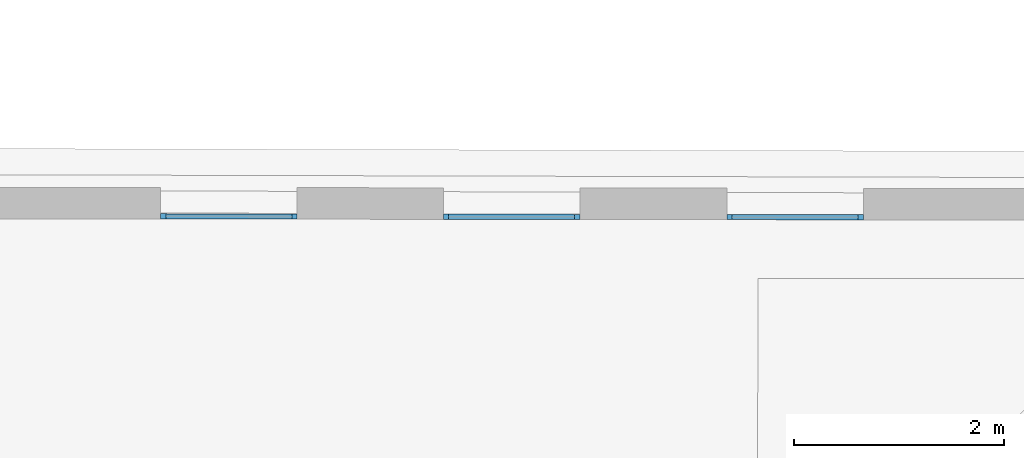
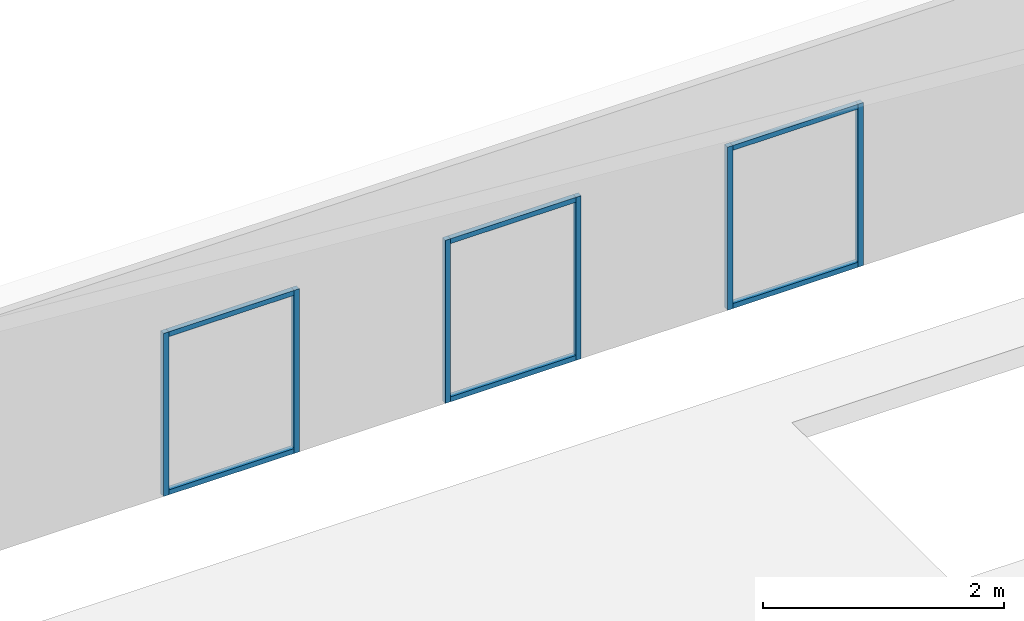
# One storey, part 14 of 26: 12 members, 3 elements without a shape of their own.
"""IFC2X3 building model written with IfcOpenShell, lengths in metres."""

from ifc_helpers import new_model, entity, si_unit, converted_unit, derived_unit, direction, frame, origin, origin_2d_with_axis, place, context, subcontext, project, spatial, rectangle, extrude, source, transform, mapped, material, type_object, type_shapes, element, aggregate, save


model = new_model("IFC2X3")

# Units and contexts
model_context = context("Model", 3, precision=1e-05, world=origin(), true_north=direction((6.123233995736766e-17, 1.0)))
body_context = subcontext(model_context, "Body", "Model", "MODEL_VIEW")
ifc_project = project(units=[si_unit("LENGTHUNIT", "METRE"), si_unit("AREAUNIT", "SQUARE_METRE"), converted_unit("PLANEANGLEUNIT", "DEGREE", entity("IfcPlaneAngleMeasure", 0.017453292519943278), si_unit("PLANEANGLEUNIT", "RADIAN"), dimensions=[0, 0, 0, 0, 0, 0, 0]), derived_unit("THERMALTRANSMITTANCEUNIT", [(si_unit("MASSUNIT", "GRAM", prefix="KILO"), 1), (si_unit("THERMODYNAMICTEMPERATUREUNIT", "KELVIN"), -1), (si_unit("TIMEUNIT", "SECOND"), -3)])], contexts=[model_context])

# Site, building, storey
site_placement = place(None, frame((1253.6752467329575, 2072.143113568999, 91.49999999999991), z_axis=(0.0, 0.0, 1.0), x_axis=(0.7237211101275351, 0.6900925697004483, 0.0)))
site = spatial("IfcSite", under=ifc_project, at=site_placement, Name="Surface", CompositionType="ELEMENT")
building_placement = place(site_placement, origin())
building = spatial("IfcBuilding", under=site, at=building_placement, CompositionType="ELEMENT")
storey_placement = place(building_placement, frame((0.0, 0.0, 7.0)))
storey = spatial("IfcBuildingStorey", under=building, at=storey_placement, Name="2-R+2", CompositionType="ELEMENT", Elevation=6.999999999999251)

# Curtain wall, member
curtain_wall_type = type_object("IfcCurtainWallType", Name="Mur-rideau:Menuiserie Ext 1F+1OB VERTIC", PredefinedType="NOTDEFINED")
curtain_wall_1_placement = place(storey_placement, frame((0.0, 0.0, -7.0)))
curtain_wall_1 = element("IfcCurtainWall", 1, at=curtain_wall_1_placement, inside=storey, type_object=curtain_wall_type, Name="Mur-rideau:Menuiserie Ext 1F+1OB VERTIC", ObjectType="Mur-rideau:Menuiserie Ext 1F+1OB VERTIC")
ifc_material = material(Name="OMD_Aluminium Men Ext")
member_type_1 = type_object("IfcMemberType", Name="Meneau rectangulaire:50x50", PredefinedType="MULLION", material=ifc_material)
shared_shape_1 = source(origin(), body_context, "Body", "SweptSolid", [
    extrude(rectangle(XDim=0.05, YDim=0.049999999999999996, at=origin_2d_with_axis()), frame((-0.025, 0.0, -1.1996959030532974), z_axis=(0.0, 0.0, 1.0), x_axis=(-1.0, 0.0, 0.0)), (0.0, 0.0, 1.0), 1.1996959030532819),
])
type_shapes(member_type_1, [shared_shape_1])
member_1_placement = place(curtain_wall_1_placement, frame((170.62940162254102, 23.13232805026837, 9.549999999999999), z_axis=(-0.7228702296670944, 0.6909838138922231, 0.0), x_axis=(0.0, 0.0, 1.0)))
member_1 = element("IfcMember", 2, at=member_1_placement, type_object=member_type_1, material=ifc_material, Name="Meneau rectangulaire:50x50", ObjectType="Meneau rectangulaire:50x50", context=body_context, shape_type="MappedRepresentation", body=[
    mapped(shared_shape_1, transform((0.0, 0.0, 0.0), scale=1.0)),
])

curtain_wall_2_placement = place(storey_placement, frame((0.0, 0.0, -7.0)))
curtain_wall_2 = element("IfcCurtainWall", 3, at=curtain_wall_2_placement, inside=storey, type_object=curtain_wall_type, Name="Mur-rideau:Menuiserie Ext 1F+1OB VERTIC", ObjectType="Mur-rideau:Menuiserie Ext 1F+1OB VERTIC")
member_2_placement = place(curtain_wall_2_placement, frame((172.58115124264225, 21.26667175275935, 9.549999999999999), z_axis=(-0.7228702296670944, 0.6909838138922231, 0.0), x_axis=(0.0, 0.0, 1.0)))
member_2 = element("IfcMember", 4, at=member_2_placement, type_object=member_type_1, material=ifc_material, Name="Meneau rectangulaire:50x50", ObjectType="Meneau rectangulaire:50x50", context=body_context, shape_type="MappedRepresentation", body=[
    mapped(shared_shape_1, transform((0.0, 0.0, 0.0), scale=1.0)),
])

curtain_wall_3_placement = place(storey_placement, frame((0.0, 0.0, -7.0)))
curtain_wall_3 = element("IfcCurtainWall", 5, at=curtain_wall_3_placement, inside=storey, type_object=curtain_wall_type, Name="Mur-rideau:Menuiserie Ext 1F+1OB VERTIC", ObjectType="Mur-rideau:Menuiserie Ext 1F+1OB VERTIC")
member_3_placement = place(curtain_wall_3_placement, frame((168.68166856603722, 24.994144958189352, 9.549999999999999), z_axis=(-0.7228702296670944, 0.6909838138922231, 0.0), x_axis=(0.0, 0.0, 1.0)))
member_3 = element("IfcMember", 6, at=member_3_placement, type_object=member_type_1, material=ifc_material, Name="Meneau rectangulaire:50x50", ObjectType="Meneau rectangulaire:50x50", context=body_context, shape_type="MappedRepresentation", body=[
    mapped(shared_shape_1, transform((0.0, 0.0, 0.0), scale=1.0)),
])

# Member
member_type_2 = type_object("IfcMemberType", Name="Meneau rectangulaire:50x50", PredefinedType="MULLION", material=ifc_material)
shared_shape_2 = source(origin(), body_context, "Body", "SweptSolid", [
    extrude(rectangle(XDim=0.05, YDim=0.05, at=origin_2d_with_axis()), frame((-0.025, 0.0, -1.1996959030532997), z_axis=(0.0, 0.0, 1.0), x_axis=(-1.0, 0.0, 0.0)), (0.0, 0.0, 1.0), 1.1996959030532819),
])
type_shapes(member_type_2, [shared_shape_2])
member_4_placement = place(curtain_wall_1_placement, frame((171.49662607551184, 22.303357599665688, 7.899999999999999), z_axis=(0.7228702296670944, -0.6909838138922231, 0.0), x_axis=(0.0, 0.0, -1.0)))
member_4 = element("IfcMember", 7, at=member_4_placement, type_object=member_type_2, material=ifc_material, Name="Meneau rectangulaire:50x50", ObjectType="Meneau rectangulaire:50x50", context=body_context, shape_type="MappedRepresentation", body=[
    mapped(shared_shape_2, transform((0.0, 0.0, 0.0), scale=1.0)),
])

member_5_placement = place(curtain_wall_2_placement, frame((173.44837569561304, 20.43770130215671, 7.899999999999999), z_axis=(0.7228702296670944, -0.6909838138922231, 0.0), x_axis=(0.0, 0.0, -1.0)))
member_5 = element("IfcMember", 8, at=member_5_placement, type_object=member_type_2, material=ifc_material, Name="Meneau rectangulaire:50x50", ObjectType="Meneau rectangulaire:50x50", context=body_context, shape_type="MappedRepresentation", body=[
    mapped(shared_shape_2, transform((0.0, 0.0, 0.0), scale=1.0)),
])

member_6_placement = place(curtain_wall_3_placement, frame((169.54889301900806, 24.165174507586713, 7.899999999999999), z_axis=(0.7228702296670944, -0.6909838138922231, 0.0), x_axis=(0.0, 0.0, -1.0)))
member_6 = element("IfcMember", 9, at=member_6_placement, type_object=member_type_2, material=ifc_material, Name="Meneau rectangulaire:50x50", ObjectType="Meneau rectangulaire:50x50", context=body_context, shape_type="MappedRepresentation", body=[
    mapped(shared_shape_2, transform((0.0, 0.0, 0.0), scale=1.0)),
])

member_type_3 = type_object("IfcMemberType", Name="Meneau rectangulaire:50x50", PredefinedType="MULLION", material=ifc_material)
shared_shape_3 = source(origin(), body_context, "Body", "SweptSolid", [
    extrude(rectangle(XDim=0.05, YDim=0.049999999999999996, at=origin_2d_with_axis()), frame((-0.025, 0.0, -1.6499999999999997), z_axis=(0.0, 0.0, 1.0), x_axis=(-1.0, 0.0, 0.0)), (0.0, 0.0, 1.0), 1.6499999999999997),
])
type_shapes(member_type_3, [shared_shape_3])
member_7_placement = place(curtain_wall_1_placement, frame((170.5932581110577, 23.16687724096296, 7.899999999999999), z_axis=(0.0, 0.0, -1.0), x_axis=(-0.7228702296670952, 0.6909838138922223, 0.0)))
member_7 = element("IfcMember", 10, at=member_7_placement, type_object=member_type_3, material=ifc_material, Name="Meneau rectangulaire:50x50", ObjectType="Meneau rectangulaire:50x50", context=body_context, shape_type="MappedRepresentation", body=[
    mapped(shared_shape_3, transform((0.0, 0.0, 0.0), scale=1.0)),
])

member_8_placement = place(curtain_wall_2_placement, frame((172.54500773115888, 21.301220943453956, 7.899999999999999), z_axis=(0.0, 0.0, -1.0), x_axis=(-0.7228702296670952, 0.6909838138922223, 0.0)))
member_8 = element("IfcMember", 11, at=member_8_placement, type_object=member_type_3, material=ifc_material, Name="Meneau rectangulaire:50x50", ObjectType="Meneau rectangulaire:50x50", context=body_context, shape_type="MappedRepresentation", body=[
    mapped(shared_shape_3, transform((0.0, 0.0, 0.0), scale=1.0)),
])

member_9_placement = place(curtain_wall_3_placement, frame((168.64552505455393, 25.028694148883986, 7.899999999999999), z_axis=(0.0, 0.0, -1.0), x_axis=(-0.7228702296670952, 0.6909838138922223, 0.0)))
member_9 = element("IfcMember", 12, at=member_9_placement, type_object=member_type_3, material=ifc_material, Name="Meneau rectangulaire:50x50", ObjectType="Meneau rectangulaire:50x50", context=body_context, shape_type="MappedRepresentation", body=[
    mapped(shared_shape_3, transform((0.0, 0.0, 0.0), scale=1.0)),
])

member_type_4 = type_object("IfcMemberType", Name="Meneau rectangulaire:50x50", PredefinedType="MULLION", material=ifc_material)
shared_shape_4 = source(origin(), body_context, "Body", "SweptSolid", [
    extrude(rectangle(XDim=0.05, YDim=0.049999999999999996, at=origin_2d_with_axis()), frame((-0.025, 0.0, -1.6499999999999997), z_axis=(0.0, 0.0, 1.0), x_axis=(-1.0, 0.0, 0.0)), (0.0, 0.0, 1.0), 1.6499999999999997),
])
type_shapes(member_type_4, [shared_shape_4])
member_10_placement = place(curtain_wall_1_placement, frame((171.53276958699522, 22.268808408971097, 9.549999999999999), z_axis=(0.0, 0.0, 1.0), x_axis=(0.7228702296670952, -0.6909838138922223, 0.0)))
member_10 = element("IfcMember", 13, at=member_10_placement, type_object=member_type_4, material=ifc_material, Name="Meneau rectangulaire:50x50", ObjectType="Meneau rectangulaire:50x50", context=body_context, shape_type="MappedRepresentation", body=[
    mapped(shared_shape_4, transform((0.0, 0.0, 0.0), scale=1.0)),
])

aggregate(curtain_wall_1, [member_1, member_4, member_7, member_10])

member_11_placement = place(curtain_wall_2_placement, frame((173.48451920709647, 20.403152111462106, 9.549999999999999), z_axis=(0.0, 0.0, 1.0), x_axis=(0.7228702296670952, -0.6909838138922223, 0.0)))
member_11 = element("IfcMember", 14, at=member_11_placement, type_object=member_type_4, material=ifc_material, Name="Meneau rectangulaire:50x50", ObjectType="Meneau rectangulaire:50x50", context=body_context, shape_type="MappedRepresentation", body=[
    mapped(shared_shape_4, transform((0.0, 0.0, 0.0), scale=1.0)),
])

aggregate(curtain_wall_2, [member_2, member_5, member_8, member_11])

member_12_placement = place(curtain_wall_3_placement, frame((169.58503653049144, 24.130625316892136, 9.549999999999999), z_axis=(0.0, 0.0, 1.0), x_axis=(0.7228702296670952, -0.6909838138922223, 0.0)))
member_12 = element("IfcMember", 15, at=member_12_placement, type_object=member_type_4, material=ifc_material, Name="Meneau rectangulaire:50x50", ObjectType="Meneau rectangulaire:50x50", context=body_context, shape_type="MappedRepresentation", body=[
    mapped(shared_shape_4, transform((0.0, 0.0, 0.0), scale=1.0)),
])

aggregate(curtain_wall_3, [member_3, member_6, member_9, member_12])

save(model, "model.ifc")
